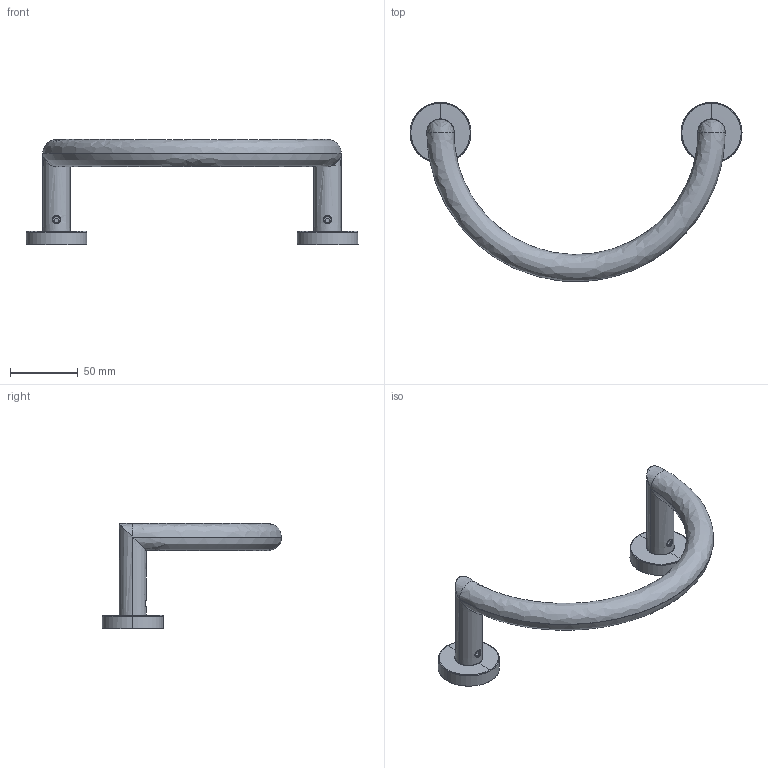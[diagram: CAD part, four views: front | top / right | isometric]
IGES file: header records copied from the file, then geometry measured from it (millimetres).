
Start section: SolidWorks IGES file using analytic representation for surfaces
Global section: file name: G:\Projects\New project\For Marketing\IGS\IGS\2015-11-27\332055002VW.IGS; native system: SolidWorks 2010; preprocessor: SolidWorks 2010; author: linda; date: 151127.140109; units: millimetre
Bounding box: 245 x 132.5 x 77.5 mm (x, y, z)
Surface area: 43080.9 mm2 (no closed solid volume)
Topology: 0 solids, 0 shells, 218 faces, 3570 edges, 3568 vertices
Faces by surface type: bspline 142, revolution 76
